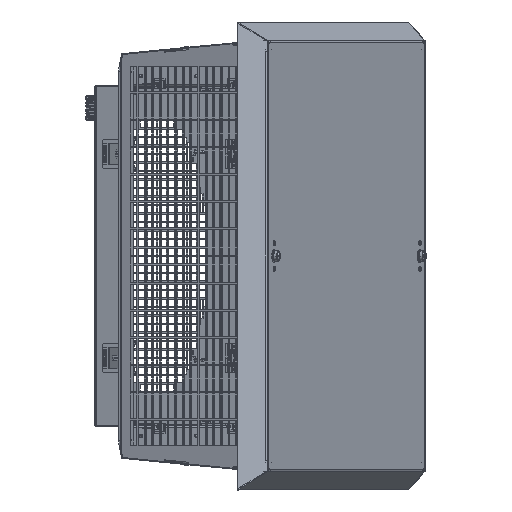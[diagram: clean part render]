
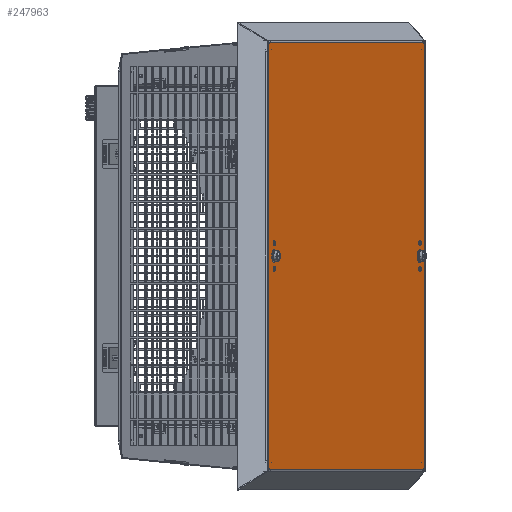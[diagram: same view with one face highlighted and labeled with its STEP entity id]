
A CAD part, front view. The second image highlights one B-rep face of the part: STEP entity #247963.
In plain terms, the highlighted planar face has unit normal (0.931, -0.365, 0) as drawn and (0, 1, 0) by its records, which use the part's own axes.
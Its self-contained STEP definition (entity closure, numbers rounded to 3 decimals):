
#246442=DIRECTION('',(1.,0.,0.));
#246443=VECTOR('',#246442,502.792);
#246444=CARTESIAN_POINT('',(-251.396,30.,251.396));
#246445=LINE('',#246444,#246443);
#246464=CARTESIAN_POINT('',(-234.,30.,0.));
#246465=DIRECTION('',(0.,1.,0.));
#246466=DIRECTION('',(-1.,0.,0.));
#246467=AXIS2_PLACEMENT_3D('',#246464,#246465,#246466);
#246469=CARTESIAN_POINT('',(-234.,30.,0.));
#246470=DIRECTION('',(0.,1.,0.));
#246471=DIRECTION('',(-1.,0.,0.011));
#246472=AXIS2_PLACEMENT_3D('',#246469,#246470,#246471);
#246474=CARTESIAN_POINT('',(-234.,30.,0.));
#246475=DIRECTION('',(0.,1.,0.));
#246476=DIRECTION('',(1.,0.,0.));
#246477=AXIS2_PLACEMENT_3D('',#246474,#246475,#246476);
#246479=CARTESIAN_POINT('',(-234.,30.,0.));
#246480=DIRECTION('',(0.,1.,0.));
#246481=DIRECTION('',(1.,0.,-0.011));
#246482=AXIS2_PLACEMENT_3D('',#246479,#246480,#246481);
#246484=CARTESIAN_POINT('',(234.,30.,0.));
#246485=DIRECTION('',(0.,1.,0.));
#246486=DIRECTION('',(-1.,0.,0.));
#246487=AXIS2_PLACEMENT_3D('',#246484,#246485,#246486);
#246489=CARTESIAN_POINT('',(234.,30.,0.));
#246490=DIRECTION('',(0.,1.,0.));
#246491=DIRECTION('',(-1.,0.,0.011));
#246492=AXIS2_PLACEMENT_3D('',#246489,#246490,#246491);
#246494=CARTESIAN_POINT('',(234.,30.,0.));
#246495=DIRECTION('',(0.,1.,0.));
#246496=DIRECTION('',(1.,0.,0.));
#246497=AXIS2_PLACEMENT_3D('',#246494,#246495,#246496);
#246499=CARTESIAN_POINT('',(234.,30.,0.));
#246500=DIRECTION('',(0.,1.,0.));
#246501=DIRECTION('',(1.,0.,-0.011));
#246502=AXIS2_PLACEMENT_3D('',#246499,#246500,#246501);
#246504=CARTESIAN_POINT('',(234.3,30.,-15.));
#246505=DIRECTION('',(0.,1.,0.));
#246506=DIRECTION('',(-1.,0.,0.));
#246507=AXIS2_PLACEMENT_3D('',#246504,#246505,#246506);
#246509=CARTESIAN_POINT('',(234.3,30.,-15.));
#246510=DIRECTION('',(0.,1.,0.));
#246511=DIRECTION('',(1.,0.,0.));
#246512=AXIS2_PLACEMENT_3D('',#246509,#246510,#246511);
#246514=CARTESIAN_POINT('',(234.3,30.,15.));
#246515=DIRECTION('',(0.,1.,0.));
#246516=DIRECTION('',(-1.,0.,0.));
#246517=AXIS2_PLACEMENT_3D('',#246514,#246515,#246516);
#246519=CARTESIAN_POINT('',(234.3,30.,15.));
#246520=DIRECTION('',(0.,1.,0.));
#246521=DIRECTION('',(1.,0.,0.));
#246522=AXIS2_PLACEMENT_3D('',#246519,#246520,#246521);
#246524=CARTESIAN_POINT('',(-234.3,30.,15.));
#246525=DIRECTION('',(0.,1.,0.));
#246526=DIRECTION('',(-1.,0.,0.));
#246527=AXIS2_PLACEMENT_3D('',#246524,#246525,#246526);
#246529=CARTESIAN_POINT('',(-234.3,30.,15.));
#246530=DIRECTION('',(0.,1.,0.));
#246531=DIRECTION('',(1.,0.,0.));
#246532=AXIS2_PLACEMENT_3D('',#246529,#246530,#246531);
#246534=CARTESIAN_POINT('',(-234.3,30.,-15.));
#246535=DIRECTION('',(0.,1.,0.));
#246536=DIRECTION('',(-1.,0.,0.));
#246537=AXIS2_PLACEMENT_3D('',#246534,#246535,#246536);
#246539=CARTESIAN_POINT('',(-234.3,30.,-15.));
#246540=DIRECTION('',(0.,1.,0.));
#246541=DIRECTION('',(1.,0.,0.));
#246542=AXIS2_PLACEMENT_3D('',#246539,#246540,#246541);
#246555=DIRECTION('',(-1.,0.,0.));
#246556=VECTOR('',#246555,502.792);
#246557=CARTESIAN_POINT('',(251.396,30.,-251.396));
#246558=LINE('',#246557,#246556);
#246849=DIRECTION('',(0.,0.,-1.));
#246850=VECTOR('',#246849,502.792);
#246851=CARTESIAN_POINT('',(251.396,30.,251.396));
#246852=LINE('',#246851,#246850);
#247159=DIRECTION('',(0.,0.,1.));
#247160=VECTOR('',#247159,502.792);
#247161=CARTESIAN_POINT('',(-251.396,30.,-251.396));
#247162=LINE('',#247161,#247160);
#247566=CARTESIAN_POINT('',(-251.396,30.,251.396));
#247567=CARTESIAN_POINT('',(251.396,30.,251.396));
#247568=VERTEX_POINT('',#247566);
#247569=VERTEX_POINT('',#247567);
#247570=CARTESIAN_POINT('',(251.396,30.,-251.396));
#247571=CARTESIAN_POINT('',(-251.396,30.,-251.396));
#247572=VERTEX_POINT('',#247570);
#247573=VERTEX_POINT('',#247571);
#247574=CARTESIAN_POINT('',(-241.492,30.,0.079));
#247575=CARTESIAN_POINT('',(-226.507,30.,0.));
#247576=VERTEX_POINT('',#247574);
#247577=VERTEX_POINT('',#247575);
#247578=CARTESIAN_POINT('',(-241.493,30.,0.));
#247579=VERTEX_POINT('',#247578);
#247580=CARTESIAN_POINT('',(-226.508,30.,-0.079));
#247581=VERTEX_POINT('',#247580);
#247582=CARTESIAN_POINT('',(226.508,30.,0.079));
#247583=CARTESIAN_POINT('',(241.493,30.,0.));
#247584=VERTEX_POINT('',#247582);
#247585=VERTEX_POINT('',#247583);
#247586=CARTESIAN_POINT('',(226.507,30.,0.));
#247587=VERTEX_POINT('',#247586);
#247588=CARTESIAN_POINT('',(241.492,30.,-0.079));
#247589=VERTEX_POINT('',#247588);
#247590=CARTESIAN_POINT('',(232.55,30.,-15.));
#247591=CARTESIAN_POINT('',(236.05,30.,-15.));
#247592=VERTEX_POINT('',#247590);
#247593=VERTEX_POINT('',#247591);
#247594=CARTESIAN_POINT('',(232.55,30.,15.));
#247595=CARTESIAN_POINT('',(236.05,30.,15.));
#247596=VERTEX_POINT('',#247594);
#247597=VERTEX_POINT('',#247595);
#247598=CARTESIAN_POINT('',(-236.05,30.,15.));
#247599=CARTESIAN_POINT('',(-232.55,30.,15.));
#247600=VERTEX_POINT('',#247598);
#247601=VERTEX_POINT('',#247599);
#247602=CARTESIAN_POINT('',(-236.05,30.,-15.));
#247603=CARTESIAN_POINT('',(-232.55,30.,-15.));
#247604=VERTEX_POINT('',#247602);
#247605=VERTEX_POINT('',#247603);
#247905=CARTESIAN_POINT('',(0.,30.,0.));
#247906=DIRECTION('',(0.,1.,0.));
#247907=DIRECTION('',(1.,0.,0.));
#247908=AXIS2_PLACEMENT_3D('',#247905,#247906,#247907);
#247909=PLANE('',#247908);
#247911=ORIENTED_EDGE('',*,*,#247910,.F.);
#247913=ORIENTED_EDGE('',*,*,#247912,.F.);
#247914=ORIENTED_EDGE('',*,*,#247895,.F.);
#247916=ORIENTED_EDGE('',*,*,#247915,.F.);
#247917=EDGE_LOOP('',(#247911,#247913,#247914,#247916));
#247918=FACE_OUTER_BOUND('',#247917,.F.);
#247920=ORIENTED_EDGE('',*,*,#247919,.T.);
#247922=ORIENTED_EDGE('',*,*,#247921,.T.);
#247924=ORIENTED_EDGE('',*,*,#247923,.T.);
#247926=ORIENTED_EDGE('',*,*,#247925,.T.);
#247927=EDGE_LOOP('',(#247920,#247922,#247924,#247926));
#247928=FACE_BOUND('',#247927,.F.);
#247930=ORIENTED_EDGE('',*,*,#247929,.T.);
#247932=ORIENTED_EDGE('',*,*,#247931,.T.);
#247934=ORIENTED_EDGE('',*,*,#247933,.T.);
#247936=ORIENTED_EDGE('',*,*,#247935,.T.);
#247937=EDGE_LOOP('',(#247930,#247932,#247934,#247936));
#247938=FACE_BOUND('',#247937,.F.);
#247940=ORIENTED_EDGE('',*,*,#247939,.T.);
#247942=ORIENTED_EDGE('',*,*,#247941,.T.);
#247943=EDGE_LOOP('',(#247940,#247942));
#247944=FACE_BOUND('',#247943,.F.);
#247946=ORIENTED_EDGE('',*,*,#247945,.T.);
#247948=ORIENTED_EDGE('',*,*,#247947,.T.);
#247949=EDGE_LOOP('',(#247946,#247948));
#247950=FACE_BOUND('',#247949,.F.);
#247952=ORIENTED_EDGE('',*,*,#247951,.T.);
#247954=ORIENTED_EDGE('',*,*,#247953,.T.);
#247955=EDGE_LOOP('',(#247952,#247954));
#247956=FACE_BOUND('',#247955,.F.);
#247958=ORIENTED_EDGE('',*,*,#247957,.T.);
#247960=ORIENTED_EDGE('',*,*,#247959,.T.);
#247961=EDGE_LOOP('',(#247958,#247960));
#247962=FACE_BOUND('',#247961,.F.);
#247963=ADVANCED_FACE('',(#247918,#247928,#247938,#247944,#247950,#247956,
#247962),#247909,.T.);
#246468=CIRCLE('',#246467,7.493);
#246473=CIRCLE('',#246472,7.493);
#246478=CIRCLE('',#246477,7.493);
#246483=CIRCLE('',#246482,7.493);
#246488=CIRCLE('',#246487,7.493);
#246493=CIRCLE('',#246492,7.493);
#246498=CIRCLE('',#246497,7.493);
#246503=CIRCLE('',#246502,7.493);
#246508=CIRCLE('',#246507,1.75);
#246513=CIRCLE('',#246512,1.75);
#246518=CIRCLE('',#246517,1.75);
#246523=CIRCLE('',#246522,1.75);
#246528=CIRCLE('',#246527,1.75);
#246533=CIRCLE('',#246532,1.75);
#246538=CIRCLE('',#246537,1.75);
#246543=CIRCLE('',#246542,1.75);
#247895=EDGE_CURVE('',#247568,#247569,#246445,.T.);
#247910=EDGE_CURVE('',#247572,#247573,#246558,.T.);
#247912=EDGE_CURVE('',#247569,#247572,#246852,.T.);
#247915=EDGE_CURVE('',#247573,#247568,#247162,.T.);
#247919=EDGE_CURVE('',#247579,#247576,#246468,.T.);
#247921=EDGE_CURVE('',#247576,#247577,#246473,.T.);
#247923=EDGE_CURVE('',#247577,#247581,#246478,.T.);
#247925=EDGE_CURVE('',#247581,#247579,#246483,.T.);
#247929=EDGE_CURVE('',#247587,#247584,#246488,.T.);
#247931=EDGE_CURVE('',#247584,#247585,#246493,.T.);
#247933=EDGE_CURVE('',#247585,#247589,#246498,.T.);
#247935=EDGE_CURVE('',#247589,#247587,#246503,.T.);
#247939=EDGE_CURVE('',#247592,#247593,#246508,.T.);
#247941=EDGE_CURVE('',#247593,#247592,#246513,.T.);
#247945=EDGE_CURVE('',#247596,#247597,#246518,.T.);
#247947=EDGE_CURVE('',#247597,#247596,#246523,.T.);
#247951=EDGE_CURVE('',#247600,#247601,#246528,.T.);
#247953=EDGE_CURVE('',#247601,#247600,#246533,.T.);
#247957=EDGE_CURVE('',#247604,#247605,#246538,.T.);
#247959=EDGE_CURVE('',#247605,#247604,#246543,.T.);
